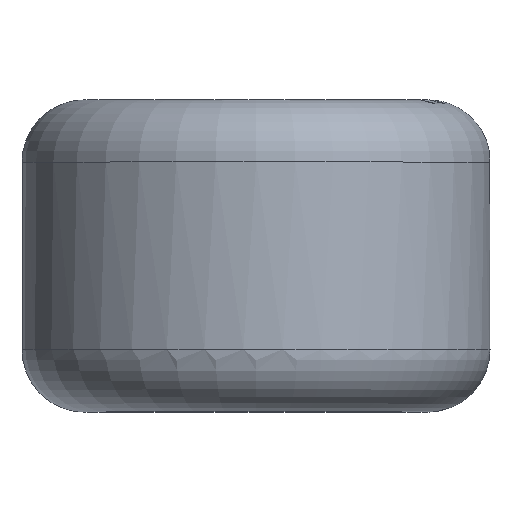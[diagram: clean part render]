
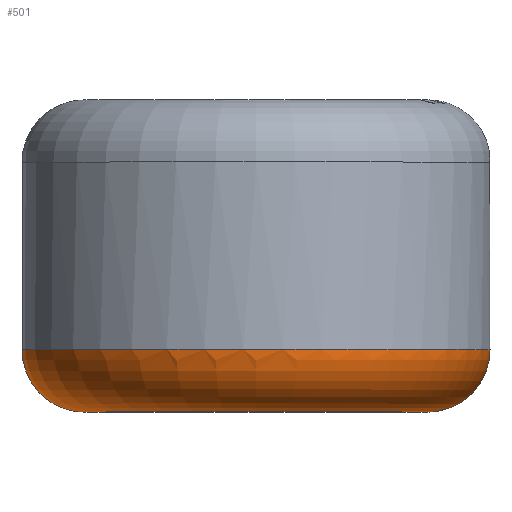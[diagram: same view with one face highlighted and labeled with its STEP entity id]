
A CAD part, top view. The second image highlights one B-rep face of the part: STEP entity #501.
In plain terms, the highlighted toroidal (fillet/blend) face has major radius 2.75 mm and minor radius 1 mm.
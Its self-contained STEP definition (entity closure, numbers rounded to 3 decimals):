
#82=FACE_OUTER_BOUND('',#112,.T.);
#112=EDGE_LOOP('',(#413,#414,#415,#416,#417,#418,#419,#420));
#151=CIRCLE('',#570,2.75);
#152=CIRCLE('',#571,1.);
#153=CIRCLE('',#572,3.75);
#154=CIRCLE('',#573,3.75);
#155=CIRCLE('',#574,3.75);
#156=CIRCLE('',#575,2.75);
#191=B_SPLINE_CURVE_WITH_KNOTS('',3,(#1643,#1644,#1645,#1646,#1647,#1648),
 .UNSPECIFIED.,.F.,.F.,(4,2,4),(-0.053,-0.018,0.),
 .UNSPECIFIED.);
#225=VERTEX_POINT('',#1471);
#231=VERTEX_POINT('',#1577);
#235=VERTEX_POINT('',#1923);
#236=VERTEX_POINT('',#1924);
#237=VERTEX_POINT('',#1926);
#238=VERTEX_POINT('',#1929);
#296=EDGE_CURVE('',#225,#231,#191,.T.);
#301=EDGE_CURVE('',#235,#236,#151,.T.);
#302=EDGE_CURVE('',#236,#237,#152,.T.);
#303=EDGE_CURVE('',#237,#231,#153,.T.);
#304=EDGE_CURVE('',#225,#238,#154,.T.);
#305=EDGE_CURVE('',#238,#237,#155,.T.);
#306=EDGE_CURVE('',#236,#235,#156,.T.);
#413=ORIENTED_EDGE('',*,*,#301,.T.);
#414=ORIENTED_EDGE('',*,*,#302,.T.);
#415=ORIENTED_EDGE('',*,*,#303,.T.);
#416=ORIENTED_EDGE('',*,*,#296,.F.);
#417=ORIENTED_EDGE('',*,*,#304,.T.);
#418=ORIENTED_EDGE('',*,*,#305,.T.);
#419=ORIENTED_EDGE('',*,*,#302,.F.);
#420=ORIENTED_EDGE('',*,*,#306,.T.);
#483=TOROIDAL_SURFACE('',#569,2.75,1.);
#501=ADVANCED_FACE('',(#82),#483,.T.);
#569=AXIS2_PLACEMENT_3D('',#1922,#674,#675);
#570=AXIS2_PLACEMENT_3D('',#1925,#676,#677);
#571=AXIS2_PLACEMENT_3D('',#1927,#678,#679);
#572=AXIS2_PLACEMENT_3D('',#1928,#680,#681);
#573=AXIS2_PLACEMENT_3D('',#1930,#682,#683);
#574=AXIS2_PLACEMENT_3D('',#1931,#684,#685);
#575=AXIS2_PLACEMENT_3D('',#1932,#686,#687);
#674=DIRECTION('center_axis',(0.,-1.,0.));
#675=DIRECTION('ref_axis',(0.,0.,1.));
#676=DIRECTION('center_axis',(0.,1.,0.));
#677=DIRECTION('ref_axis',(-1.,0.,0.));
#678=DIRECTION('center_axis',(1.,0.,0.));
#679=DIRECTION('ref_axis',(0.,0.,-1.));
#680=DIRECTION('center_axis',(0.,-1.,0.));
#681=DIRECTION('ref_axis',(-1.,0.,0.));
#682=DIRECTION('center_axis',(0.,-1.,0.));
#683=DIRECTION('ref_axis',(-1.,0.,0.));
#684=DIRECTION('center_axis',(0.,-1.,0.));
#685=DIRECTION('ref_axis',(-1.,0.,0.));
#686=DIRECTION('center_axis',(0.,1.,0.));
#687=DIRECTION('ref_axis',(-1.,0.,0.));
#1471=CARTESIAN_POINT('',(2.327,-1.5,-2.941));
#1577=CARTESIAN_POINT('',(1.936,-1.5,-3.212));
#1643=CARTESIAN_POINT('Ctrl Pts',(2.327,-1.5,-2.941));
#1644=CARTESIAN_POINT('Ctrl Pts',(2.247,-1.526,-3.004));
#1645=CARTESIAN_POINT('Ctrl Pts',(2.157,-1.535,-3.069));
#1646=CARTESIAN_POINT('Ctrl Pts',(2.023,-1.521,-3.158));
#1647=CARTESIAN_POINT('Ctrl Pts',(1.979,-1.513,-3.186));
#1648=CARTESIAN_POINT('Ctrl Pts',(1.936,-1.5,-3.212));
#1922=CARTESIAN_POINT('Origin',(0.,-1.5,0.));
#1923=CARTESIAN_POINT('',(2.75,-2.5,0.));
#1924=CARTESIAN_POINT('',(0.,-2.5,-2.75));
#1925=CARTESIAN_POINT('Origin',(0.,-2.5,0.));
#1926=CARTESIAN_POINT('',(0.,-1.5,-3.75));
#1927=CARTESIAN_POINT('Origin',(0.,-1.5,-2.75));
#1928=CARTESIAN_POINT('Origin',(0.,-1.5,0.));
#1929=CARTESIAN_POINT('',(-3.75,-1.5,0.));
#1930=CARTESIAN_POINT('Origin',(0.,-1.5,0.));
#1931=CARTESIAN_POINT('Origin',(0.,-1.5,0.));
#1932=CARTESIAN_POINT('Origin',(0.,-2.5,0.));
